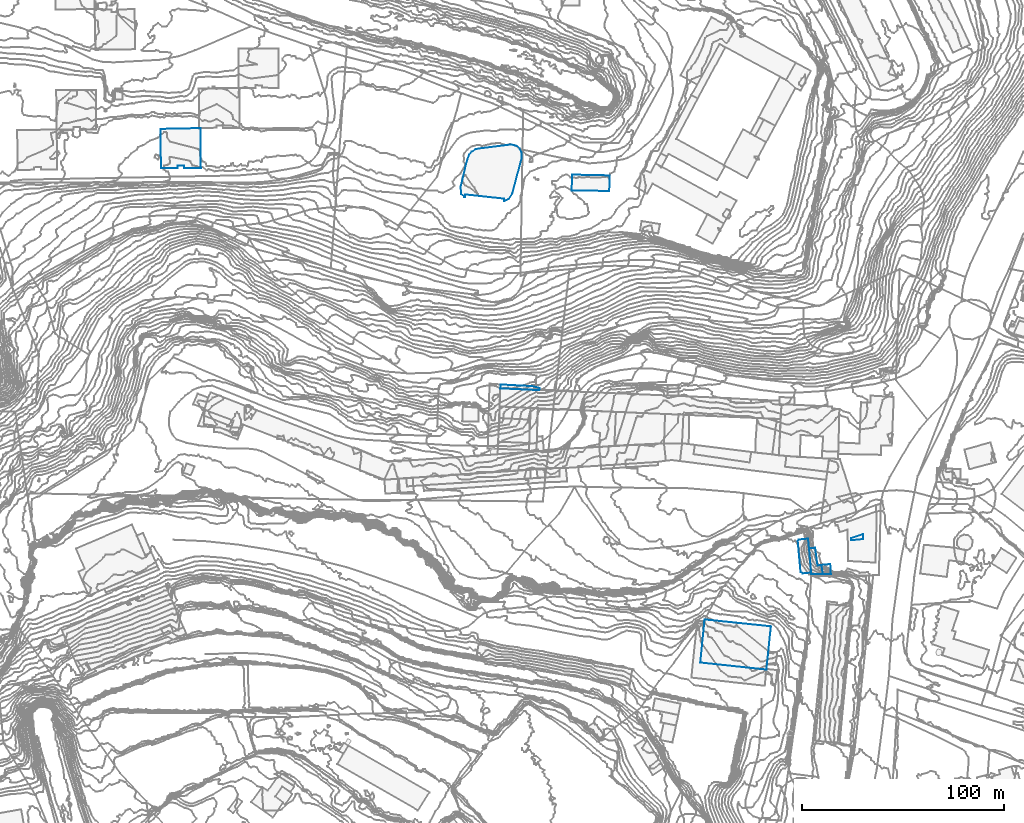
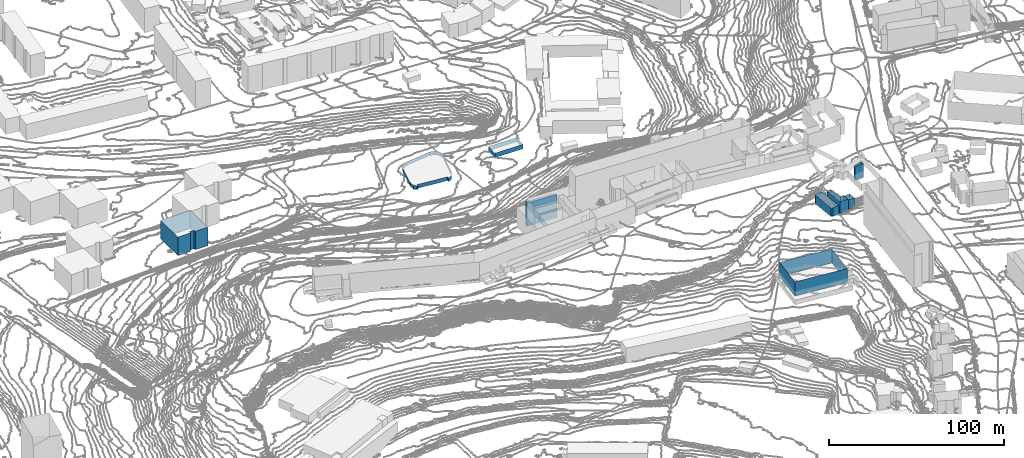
# Not in any storey, part 43 of 419: 9 walls.
"""IFC2X3 model written with IfcOpenShell, lengths in metres."""

from ifc_helpers import new_model, si_unit, frame, origin_with_axes, place, context, subcontext, project, faceted_brep, element, save


model = new_model("IFC2X3")

# Units and contexts
model_context = context("Model", 3, precision=1e-05, world=origin_with_axes())
body_context = subcontext(model_context, "Body", "Model", "MODEL_VIEW")
ifc_project = project(units=[si_unit("AREAUNIT", "SQUARE_METRE"), si_unit("LENGTHUNIT", "METRE")], contexts=[model_context])

# Walls
wall_1_placement = place(None, frame((600.1920204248, 216.0976909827, 59.4442009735), z_axis=(0.0, 0.0, 1.0), x_axis=(1.0, 0.0, 0.0)))
element("IfcWall", 1, at=wall_1_placement, Name="Mur 0", context=body_context, shape_type="Brep", body=[
    faceted_brep([(0.0, 0.0, 9.8557990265), (2.0, 20.2999999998, 9.8557990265), (0.0, 0.0, 0.0), (2.0, 20.2999999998, 0.0), (32.7000000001, -3.5, 9.8557990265), (32.7000000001, -3.5, 0.0), (34.9, 17.8999999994, 9.8557990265), (34.9, 17.8999999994, 0.0), (2.1, 21.2999999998, 9.8557990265), (2.1, 21.2999999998, 0.0)], [[[0, 1, 2]], [[2, 1, 3]], [[4, 0, 5]], [[5, 0, 2]], [[6, 4, 7]], [[7, 4, 5]], [[1, 8, 3]], [[3, 8, 9]], [[8, 6, 9]], [[9, 6, 7]]]),
])
wall_2_placement = place(None, frame((501.2920204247, 351.6976909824, 60.5035990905), z_axis=(0.0, 0.0, 1.0), x_axis=(1.0, 0.0, 0.0)))
element("IfcWall", 2, at=wall_2_placement, Name="Mur 0", context=body_context, shape_type="Brep", body=[
    faceted_brep([(19.4, 0.2000000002, 16.1964009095), (19.3, -0.8999999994, 16.1964009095), (19.4, 0.2000000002, 0.0), (19.3, -0.8999999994, 0.0), (15.7000000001, 1.1000000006, 16.1964009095), (15.7000000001, 1.1000000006, 0.0), (0.1000000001, 1.9000000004, 16.1964009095), (0.1000000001, 1.9000000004, 0.0), (0.0, 0.0, 16.1964009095), (0.0, 0.0, 0.0)], [[[0, 1, 2]], [[2, 1, 3]], [[4, 0, 5]], [[5, 0, 2]], [[6, 4, 7]], [[7, 4, 5]], [[1, 8, 3]], [[3, 8, 9]], [[8, 6, 9]], [[9, 6, 7]]]),
])
wall_3_placement = place(None, frame((653.9920204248, 272.5976909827, 71.1980010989), z_axis=(0.0, 0.0, 1.0), x_axis=(1.0, 0.0, 0.0)))
element("IfcWall", 3, at=wall_3_placement, Name="Mur 0", context=body_context, shape_type="Brep", body=[
    faceted_brep([(6.1, -8.2000000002, 8.4019989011), (6.7999999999, -12.7999999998, 8.4019989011), (6.1, -8.2000000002, 0.0), (6.7999999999, -12.7999999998, 0.0), (4.2, -8.5, 8.4019989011), (4.2, -8.5, 0.0), (3.0, 0.2999999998, 8.4019989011), (3.0, 0.2999999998, 0.0), (0.0, 0.0, 8.4019989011), (0.0, 0.0, 0.0), (1.1, -12.7999999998, 8.4019989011), (1.1, -12.7999999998, 0.0)], [[[0, 1, 2]], [[2, 1, 3]], [[4, 0, 5]], [[5, 0, 2]], [[6, 4, 7]], [[7, 4, 5]], [[8, 6, 9]], [[9, 6, 7]], [[1, 10, 3]], [[3, 10, 11]], [[10, 8, 11]], [[11, 8, 9]]]),
])
wall_4_placement = place(None, frame((660.0920204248, 264.3976909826, 72.1544018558), z_axis=(0.0, 0.0, 1.0), x_axis=(1.0, 0.0, 0.0)))
element("IfcWall", 4, at=wall_4_placement, Name="Mur 0", context=body_context, shape_type="Brep", body=[
    faceted_brep([(4.4, 0.4000000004, 6.7455981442), (4.7, -4.5999999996, 6.7455981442), (4.4, 0.4000000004, 0.0), (4.7, -4.5999999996, 0.0), (0.0, 0.0, 6.7455981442), (0.0, 0.0, 0.0), (0.7, -4.5999999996, 6.7455981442), (0.7, -4.5999999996, 0.0)], [[[0, 1, 2]], [[2, 1, 3]], [[4, 0, 5]], [[5, 0, 2]], [[1, 6, 3]], [[3, 6, 7]], [[6, 4, 7]], [[7, 4, 5]]]),
])
wall_5_placement = place(None, frame((674.7920204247, 276.5976909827, 77.3393980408), z_axis=(0.0, 0.0, 1.0), x_axis=(1.0, 0.0, 0.0)))
element("IfcWall", 5, at=wall_5_placement, Name="Mur 0", context=body_context, shape_type="Brep", body=[
    faceted_brep([(0.0, 1.0999999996, 9.3606019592), (5.9, 3.0, 9.3606019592), (0.0, 1.0999999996, 0.0), (5.9, 3.0, 0.0), (0.0, 0.0, 9.3606019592), (0.0, 0.0, 0.0), (6.0, 0.5999999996, 9.3606019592), (6.0, 0.5999999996, 0.0)], [[[0, 1, 2]], [[2, 1, 3]], [[4, 0, 5]], [[5, 0, 2]], [[1, 6, 3]], [[3, 6, 7]], [[6, 4, 7]], [[7, 4, 5]]]),
])
wall_6_placement = place(None, frame((536.5920204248, 449.5976909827, 36.7559989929), z_axis=(0.0, 0.0, 1.0), x_axis=(1.0, 0.0, 0.0)))
element("IfcWall", 6, at=wall_6_placement, Name="Mur 0", context=body_context, shape_type="Brep", body=[
    faceted_brep([(18.7, 7.3999999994, 3.0440010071), (18.6, -0.2999999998, 3.0440010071), (18.7, 7.3999999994, 0.0), (18.6, -0.2999999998, 0.0), (0.2, 7.7999999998, 3.0440010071), (0.2, 7.7999999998, 0.0), (0.0, 0.0, 3.0440010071), (0.0, 0.0, 0.0)], [[[0, 1, 2]], [[2, 1, 3]], [[4, 0, 5]], [[5, 0, 2]], [[1, 6, 3]], [[3, 6, 7]], [[6, 4, 7]], [[7, 4, 5]]]),
])
wall_7_placement = place(None, frame((648.3920204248, 276.1976909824, 70.5738009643), z_axis=(0.0, 0.0, 1.0), x_axis=(1.0, 0.0, 0.0)))
element("IfcWall", 7, at=wall_7_placement, Name="Mur 0", context=body_context, shape_type="Brep", body=[
    faceted_brep([(5.1, 1.2000000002, 6.0261990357), (5.6, -3.5999999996, 6.0261990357), (5.1, 1.2000000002, 0.0), (5.6, -3.5999999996, 0.0), (0.2999999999, 0.7000000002, 6.0261990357), (0.2999999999, 0.7000000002, 0.0), (0.0, 0.0, 6.0261990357), (0.0, 0.0, 0.0), (1.3999999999, -15.2999999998, 6.0261990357), (1.3999999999, -15.2999999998, 0.0), (2.5, -16.0, 6.0261990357), (2.5, -16.0, 0.0), (6.6, -15.5999999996, 6.0261990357), (6.6, -15.5999999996, 0.0)], [[[0, 1, 2]], [[2, 1, 3]], [[4, 0, 5]], [[5, 0, 2]], [[6, 4, 7]], [[7, 4, 5]], [[8, 6, 9]], [[9, 6, 7]], [[10, 8, 11]], [[11, 8, 9]], [[1, 12, 3]], [[3, 12, 13]], [[12, 10, 13]], [[13, 10, 11]]]),
])
wall_8_placement = place(None, frame((333.1920204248, 479.9976909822, 32.7179985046), z_axis=(0.0, 0.0, 1.0), x_axis=(1.0, 0.0, 0.0)))
element("IfcWall", 8, at=wall_8_placement, Name="Mur 0", context=body_context, shape_type="Brep", body=[
    faceted_brep([(8.6, -18.0999999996, 12.9820014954), (8.6, -19.3999999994, 12.9820014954), (8.6, -18.0999999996, 0.0), (8.6, -19.3999999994, 0.0), (11.8, -18.0, 12.9820014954), (11.8, -18.0, 0.0), (11.8, -19.2999999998, 12.9820014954), (11.8, -19.2999999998, 0.0), (20.0, -19.3999999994, 12.9820014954), (20.0, -19.3999999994, 0.0), (19.8, 0.4000000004, 12.9820014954), (19.8, 0.4000000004, 0.0), (0.0, 0.0, 12.9820014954), (0.0, 0.0, 0.0), (0.3, -19.3999999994, 12.9820014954), (0.3, -19.3999999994, 0.0)], [[[0, 1, 2]], [[2, 1, 3]], [[4, 0, 5]], [[5, 0, 2]], [[6, 4, 7]], [[7, 4, 5]], [[8, 6, 9]], [[9, 6, 7]], [[10, 8, 11]], [[11, 8, 9]], [[12, 10, 13]], [[13, 10, 11]], [[1, 14, 3]], [[3, 14, 15]], [[14, 12, 15]], [[15, 12, 13]]]),
])
wall_9_placement = place(None, frame((481.6920204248, 451.4976909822, 34.9703996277), z_axis=(0.0, 0.0, 1.0), x_axis=(1.0, 0.0, 0.0)))
element("IfcWall", 9, at=wall_9_placement, Name="Mur 0", context=body_context, shape_type="Brep", body=[
    faceted_brep([(21.4, -6.0, 2.6296003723), (2.3, -3.8999999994, 2.6296003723), (21.4, -6.0, 0.0), (2.3, -3.8999999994, 0.0), (21.4, -7.1999999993, 2.6296003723), (21.4, -7.1999999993, 0.0), (23.7000000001, -6.1999999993, 2.6296003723), (23.7000000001, -6.1999999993, 0.0), (25.5, -3.5, 2.6296003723), (25.5, -3.5, 0.0), (30.2000000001, 14.4000000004, 2.6296003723), (30.2000000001, 14.4000000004, 0.0), (30.1, 16.9000000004, 2.6296003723), (30.1, 16.9000000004, 0.0), (29.1, 18.9000000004, 2.6296003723), (29.1, 18.9000000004, 0.0), (27.7000000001, 20.1000000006, 2.6296003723), (27.7000000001, 20.1000000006, 0.0), (24.9, 20.8000000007, 2.6296003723), (24.9, 20.8000000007, 0.0), (8.8, 18.8000000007, 2.6296003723), (8.8, 18.8000000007, 0.0), (7.4, 18.5, 2.6296003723), (7.4, 18.5, 0.0), (5.4, 17.2000000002, 2.6296003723), (5.4, 17.2000000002, 0.0), (4.2000000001, 15.8000000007, 2.6296003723), (4.2000000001, 15.8000000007, 0.0), (3.3, 13.7000000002, 2.6296003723), (3.3, 13.7000000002, 0.0), (0.0, 0.0, 2.6296003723), (0.0, 0.0, 0.0), (0.2000000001, -3.6999999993, 2.6296003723), (0.2000000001, -3.6999999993, 0.0), (1.8, -5.0999999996, 2.6296003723), (1.8, -5.0999999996, 0.0), (2.2000000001, -5.0999999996, 2.6296003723), (2.2000000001, -5.0999999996, 0.0)], [[[0, 1, 2]], [[2, 1, 3]], [[4, 0, 5]], [[5, 0, 2]], [[6, 4, 7]], [[7, 4, 5]], [[8, 6, 9]], [[9, 6, 7]], [[10, 8, 11]], [[11, 8, 9]], [[12, 10, 13]], [[13, 10, 11]], [[14, 12, 15]], [[15, 12, 13]], [[16, 14, 17]], [[17, 14, 15]], [[18, 16, 19]], [[19, 16, 17]], [[20, 18, 21]], [[21, 18, 19]], [[22, 20, 23]], [[23, 20, 21]], [[24, 22, 25]], [[25, 22, 23]], [[26, 24, 27]], [[27, 24, 25]], [[28, 26, 29]], [[29, 26, 27]], [[30, 28, 31]], [[31, 28, 29]], [[32, 30, 33]], [[33, 30, 31]], [[34, 32, 35]], [[35, 32, 33]], [[1, 36, 3]], [[3, 36, 37]], [[36, 34, 37]], [[37, 34, 35]]]),
])

save(model, "model.ifc")
